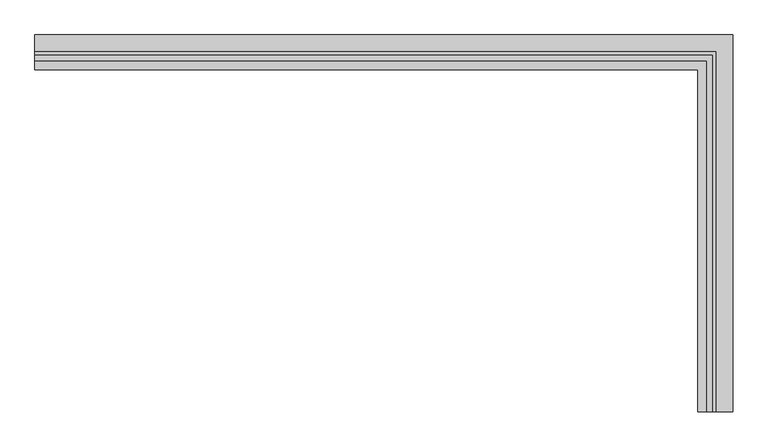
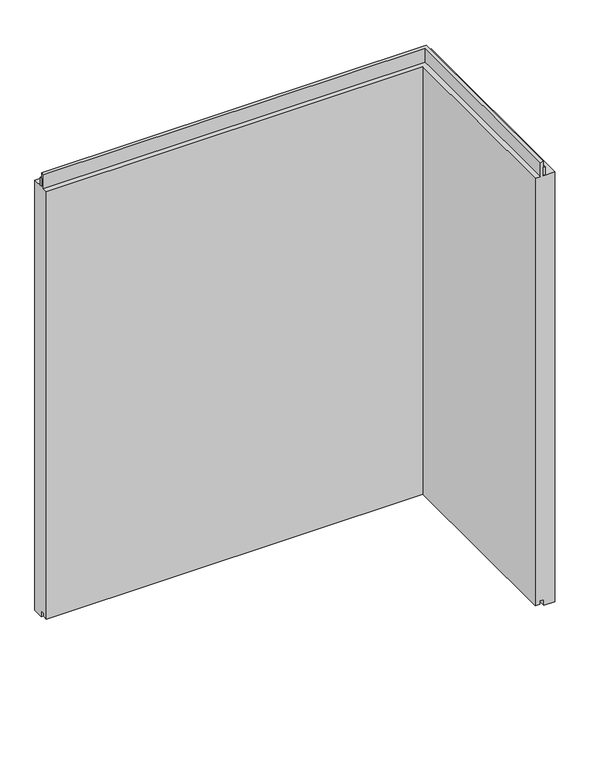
"""IFC4 building model written with IfcOpenShell, lengths in millimetres: plate geometry, Trimo_Qbiss Screen_L Corner Panel-HORIZONTAL : HR - B."""

from ifc_helpers import new_model, si_unit, frame, origin, place, context, project, spatial, polyline, outline, extrude, faceted_brep, source, transform, mapped, element, save


def plate_9264498c(model_context):
    return source(origin(), model_context, "Body", "SolidModel", [
        extrude(outline(polyline([(-443.75, 71.0), (-443.75, 76.0), (532.25, 76.0), (532.25, -440.0), (527.25, -440.0), (527.25, 71.0), (-443.75, 71.0)])), frame((0.0, 0.0, 1148.0), z_axis=(0.0, 0.0, 1.0), x_axis=(1.0, 0.0, 0.0)), (0.0, 0.0, 1.0), 21.0),
        faceted_brep([(-443.75, 71.0, 1147.0), (-443.75, 100.0, 1147.0), (-443.75, 100.0, 0.0), (-443.75, 72.0, 0.0), (-443.75, 72.0, 15.5), (-443.75, 62.0, 15.5), (-443.75, 62.0, 7.0), (-443.75, 50.0, 7.0), (-443.75, 50.0, 1147.0), (-443.75, 63.0, 1147.0), (-443.75, 63.0, 1184.5), (-443.75, 71.0, 1184.5), (527.25, 71.0, 1147.0), (527.25, -440.0, 1147.0), (556.25, -440.0, 1147.0), (556.25, 100.0, 1147.0), (556.25, 100.0, 0.0), (556.25, -440.0, 0.0), (528.25, -440.0, 0.0), (528.25, 72.0, 0.0), (528.25, 72.0, 15.5), (528.25, -440.0, 15.5), (518.25, -440.0, 15.5), (518.25, 62.0, 15.5), (518.25, 62.0, 7.0), (518.25, -440.0, 7.0), (506.25, -440.0, 7.0), (506.25, 50.0, 7.0), (506.25, 50.0, 1147.0), (506.25, -440.0, 1147.0), (519.25, -440.0, 1147.0), (519.25, 63.0, 1147.0), (519.25, 63.0, 1184.5), (519.25, -440.0, 1184.5), (527.25, -440.0, 1184.5), (527.25, 71.0, 1184.5)], [[[0, 1, 2, 3, 4, 5, 6, 7, 8, 9, 10, 11]], [[1, 0, 12, 13, 14, 15]], [[2, 1, 15, 16]], [[3, 2, 16, 17, 18, 19]], [[4, 3, 19, 20]], [[5, 4, 20, 21, 22, 23]], [[6, 5, 23, 24]], [[7, 6, 24, 25, 26, 27]], [[8, 7, 27, 28]], [[9, 8, 28, 29, 30, 31]], [[10, 9, 31, 32]], [[11, 10, 32, 33, 34, 35]], [[0, 11, 35, 12]], [[13, 34, 33, 30, 29, 26, 25, 22, 21, 18, 17, 14]], [[16, 15, 14, 17]], [[20, 19, 18, 21]], [[24, 23, 22, 25]], [[28, 27, 26, 29]], [[32, 31, 30, 33]], [[12, 35, 34, 13]]]),
    ])


if __name__ == "__main__":
    model = new_model("IFC4")
    model_context = context("Model", 3, world=origin())
    ifc_project = project(units=[si_unit("LENGTHUNIT", "METRE", prefix="MILLI")], contexts=[model_context])
    site = spatial("IfcSite", under=ifc_project)
    building = spatial("IfcBuilding", under=site)
    placement = place(None, origin())
    plate_shape = plate_9264498c(model_context)
    element("IfcPlate", 1, ObjectType="Trimo_Qbiss Screen_L Corner Panel-HORIZONTAL : HR - B", at=placement, inside=building, context=model_context, shape_type="MappedRepresentation", body=[
        mapped(plate_shape, transform((0.0, 0.0, 0.0), x_axis=(1.0, 0.0, 0.0), y_axis=(0.0, 1.0, 0.0), z_axis=(0.0, 0.0, 1.0))),
    ])
    save(model, "model.ifc")
